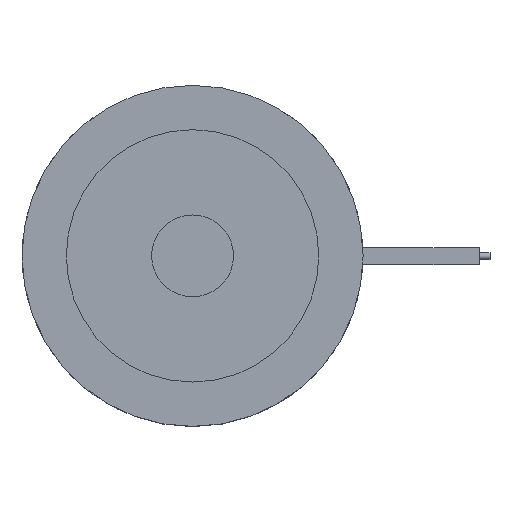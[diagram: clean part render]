
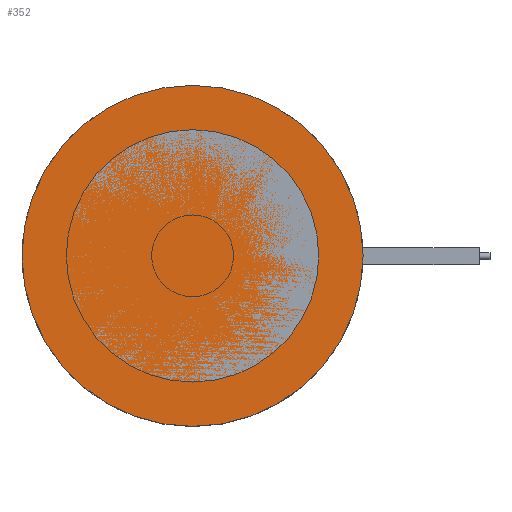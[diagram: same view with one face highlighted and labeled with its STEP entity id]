
A CAD part, top view. The second image highlights one B-rep face of the part: STEP entity #352.
In plain terms, the highlighted planar face has unit normal (0, 0, 1).
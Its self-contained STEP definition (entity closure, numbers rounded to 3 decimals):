
#352=ADVANCED_FACE('',(#462),#423,.F.);
#423=PLANE('',#1251);
#462=FACE_OUTER_BOUND('',#553,.T.);
#553=EDGE_LOOP('',(#705));
#705=ORIENTED_EDGE('',*,*,#1030,.F.);
#924=VERTEX_POINT('',#1837);
#1030=EDGE_CURVE('',#924,#924,#1145,.T.);
#1145=CIRCLE('',#1250,25.);
#1250=AXIS2_PLACEMENT_3D('',#1836,#1474,#1475);
#1251=AXIS2_PLACEMENT_3D('',#1838,#1476,#1477);
#1474=DIRECTION('',(0.,0.,-1.));
#1475=DIRECTION('',(-1.,0.,0.));
#1476=DIRECTION('',(0.,0.,-1.));
#1477=DIRECTION('',(-1.,0.,0.));
#1836=CARTESIAN_POINT('',(0.,0.,0.));
#1837=CARTESIAN_POINT('',(-25.,0.,0.));
#1838=CARTESIAN_POINT('',(0.,0.,0.));
